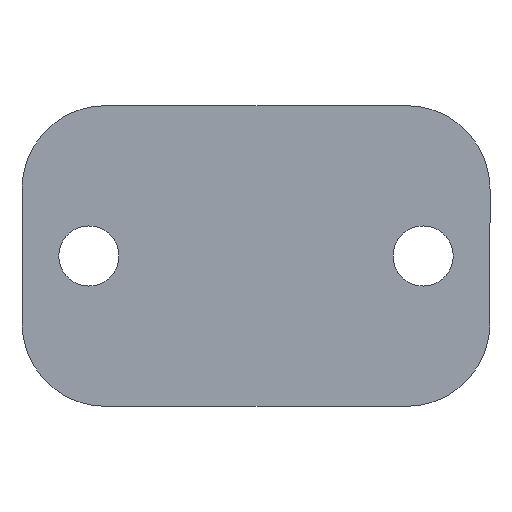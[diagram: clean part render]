
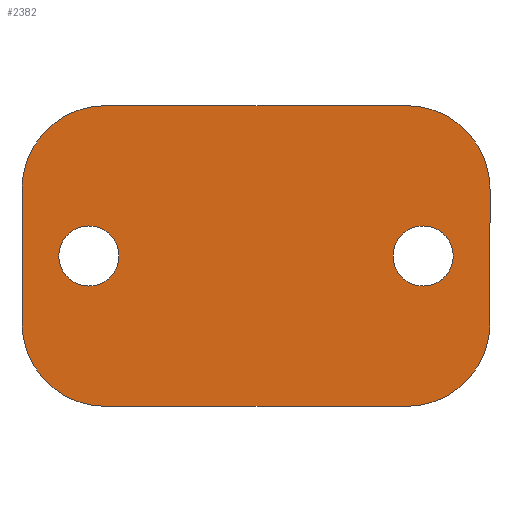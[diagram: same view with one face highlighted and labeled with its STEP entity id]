
A CAD part, front view. The second image highlights one B-rep face of the part: STEP entity #2382.
In plain terms, the highlighted planar face has unit normal (0, -1, 0).
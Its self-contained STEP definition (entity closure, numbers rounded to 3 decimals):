
#79 = EDGE_CURVE ( 'NONE', #2158, #2057, #217, .T. ) ;
#132 = ORIENTED_EDGE ( 'NONE', *, *, #2177, .F. ) ;
#133 = CARTESIAN_POINT ( 'NONE',  ( -50., -20., 0. ) ) ;
#184 = CARTESIAN_POINT ( 'NONE',  ( -45., -20., 45. ) ) ;
#217 = CIRCLE ( 'NONE', #4477, 25. ) ;
#305 = CARTESIAN_POINT ( 'NONE',  ( -50., -20., 0. ) ) ;
#306 = DIRECTION ( 'NONE',  ( 1., 0., 0. ) ) ;
#322 = CARTESIAN_POINT ( 'NONE',  ( -70., -20., -20. ) ) ;
#443 = AXIS2_PLACEMENT_3D ( 'NONE', #2219, #3896, #4406 ) ;
#625 = CIRCLE ( 'NONE', #1609, 9. ) ;
#627 = VERTEX_POINT ( 'NONE', #5263 ) ;
#829 = EDGE_CURVE ( 'NONE', #1466, #4735, #3169, .T. ) ;
#922 = DIRECTION ( 'NONE',  ( 0., -1., 0. ) ) ;
#935 = LINE ( 'NONE', #2540, #5401 ) ;
#977 = DIRECTION ( 'NONE',  ( 1., 0., 0. ) ) ;
#1055 = CARTESIAN_POINT ( 'NONE',  ( 45., -20., -20. ) ) ;
#1062 = CARTESIAN_POINT ( 'NONE',  ( 0., -20., 0. ) ) ;
#1073 = EDGE_LOOP ( 'NONE', ( #132, #2402 ) ) ;
#1126 = ORIENTED_EDGE ( 'NONE', *, *, #3129, .T. ) ;
#1150 = VECTOR ( 'NONE', #4311, 1000. ) ;
#1174 = CARTESIAN_POINT ( 'NONE',  ( 59., -20., 0. ) ) ;
#1180 = DIRECTION ( 'NONE',  ( 0., -1., 0. ) ) ;
#1215 = EDGE_LOOP ( 'NONE', ( #1778, #2195 ) ) ;
#1223 = CARTESIAN_POINT ( 'NONE',  ( -59., -20., 0. ) ) ;
#1236 = AXIS2_PLACEMENT_3D ( 'NONE', #5487, #1180, #4638 ) ;
#1241 = VERTEX_POINT ( 'NONE', #4344 ) ;
#1334 = CIRCLE ( 'NONE', #4233, 25. ) ;
#1359 = ORIENTED_EDGE ( 'NONE', *, *, #79, .T. ) ;
#1363 = DIRECTION ( 'NONE',  ( 1., 0., 0. ) ) ;
#1413 = EDGE_CURVE ( 'NONE', #5533, #627, #4041, .T. ) ;
#1466 = VERTEX_POINT ( 'NONE', #1562 ) ;
#1497 = EDGE_CURVE ( 'NONE', #2390, #4256, #4768, .T. ) ;
#1562 = CARTESIAN_POINT ( 'NONE',  ( 70., -20., -20. ) ) ;
#1602 = AXIS2_PLACEMENT_3D ( 'NONE', #133, #1847, #3587 ) ;
#1609 = AXIS2_PLACEMENT_3D ( 'NONE', #2223, #3957, #306 ) ;
#1778 = ORIENTED_EDGE ( 'NONE', *, *, #5309, .F. ) ;
#1847 = DIRECTION ( 'NONE',  ( 0., -1., 0. ) ) ;
#1849 = VECTOR ( 'NONE', #5345, 1000. ) ;
#1911 = DIRECTION ( 'NONE',  ( 1., 0., 0. ) ) ;
#2057 = VERTEX_POINT ( 'NONE', #2648 ) ;
#2077 = ORIENTED_EDGE ( 'NONE', *, *, #2905, .T. ) ;
#2156 = CIRCLE ( 'NONE', #1602, 9. ) ;
#2158 = VERTEX_POINT ( 'NONE', #184 ) ;
#2177 = EDGE_CURVE ( 'NONE', #627, #5533, #2156, .T. ) ;
#2195 = ORIENTED_EDGE ( 'NONE', *, *, #1497, .F. ) ;
#2219 = CARTESIAN_POINT ( 'NONE',  ( 45., -20., 20. ) ) ;
#2223 = CARTESIAN_POINT ( 'NONE',  ( 50., -20., 0. ) ) ;
#2311 = FACE_BOUND ( 'NONE', #1073, .T. ) ;
#2382 = ADVANCED_FACE ( 'NONE', ( #2311, #3197, #4926 ), #2819, .T. ) ;
#2390 = VERTEX_POINT ( 'NONE', #4524 ) ;
#2399 = ORIENTED_EDGE ( 'NONE', *, *, #3992, .T. ) ;
#2402 = ORIENTED_EDGE ( 'NONE', *, *, #1413, .F. ) ;
#2540 = CARTESIAN_POINT ( 'NONE',  ( -70., -20., 20. ) ) ;
#2581 = CARTESIAN_POINT ( 'NONE',  ( 70., -20., 20. ) ) ;
#2614 = AXIS2_PLACEMENT_3D ( 'NONE', #1055, #4143, #4599 ) ;
#2628 = CARTESIAN_POINT ( 'NONE',  ( -45., -20., 20. ) ) ;
#2648 = CARTESIAN_POINT ( 'NONE',  ( -70., -20., 20. ) ) ;
#2819 = PLANE ( 'NONE',  #5509 ) ;
#2850 = DIRECTION ( 'NONE',  ( 0., -1., 0. ) ) ;
#2852 = AXIS2_PLACEMENT_3D ( 'NONE', #305, #2850, #5088 ) ;
#2905 = EDGE_CURVE ( 'NONE', #2911, #2158, #3488, .T. ) ;
#2911 = VERTEX_POINT ( 'NONE', #4342 ) ;
#3129 = EDGE_CURVE ( 'NONE', #2057, #4731, #935, .T. ) ;
#3169 = LINE ( 'NONE', #3623, #1849 ) ;
#3197 = FACE_BOUND ( 'NONE', #1215, .T. ) ;
#3327 = VECTOR ( 'NONE', #1363, 1000. ) ;
#3488 = LINE ( 'NONE', #3518, #1150 ) ;
#3516 = CIRCLE ( 'NONE', #2614, 25. ) ;
#3518 = CARTESIAN_POINT ( 'NONE',  ( -45., -20., 45. ) ) ;
#3587 = DIRECTION ( 'NONE',  ( 1., 0., 0. ) ) ;
#3623 = CARTESIAN_POINT ( 'NONE',  ( 70., -20., 20. ) ) ;
#3734 = EDGE_CURVE ( 'NONE', #5040, #1241, #3943, .T. ) ;
#3896 = DIRECTION ( 'NONE',  ( 0., -1., 0. ) ) ;
#3902 = DIRECTION ( 'NONE',  ( 0., -1., 0. ) ) ;
#3943 = LINE ( 'NONE', #5250, #3327 ) ;
#3953 = ORIENTED_EDGE ( 'NONE', *, *, #3734, .T. ) ;
#3957 = DIRECTION ( 'NONE',  ( 0., -1., 0. ) ) ;
#3992 = EDGE_CURVE ( 'NONE', #4735, #2911, #4142, .T. ) ;
#4027 = EDGE_CURVE ( 'NONE', #4731, #5040, #1334, .T. ) ;
#4041 = CIRCLE ( 'NONE', #2852, 9. ) ;
#4142 = CIRCLE ( 'NONE', #443, 25. ) ;
#4143 = DIRECTION ( 'NONE',  ( 0., -1., 0. ) ) ;
#4157 = DIRECTION ( 'NONE',  ( 0., -1., 0. ) ) ;
#4229 = ORIENTED_EDGE ( 'NONE', *, *, #4027, .T. ) ;
#4233 = AXIS2_PLACEMENT_3D ( 'NONE', #4806, #922, #977 ) ;
#4256 = VERTEX_POINT ( 'NONE', #1174 ) ;
#4297 = DIRECTION ( 'NONE',  ( 1., 0., 0. ) ) ;
#4311 = DIRECTION ( 'NONE',  ( -1., 0., 0. ) ) ;
#4342 = CARTESIAN_POINT ( 'NONE',  ( 45., -20., 45. ) ) ;
#4344 = CARTESIAN_POINT ( 'NONE',  ( 45., -20., -45. ) ) ;
#4406 = DIRECTION ( 'NONE',  ( 1., 0., 0. ) ) ;
#4477 = AXIS2_PLACEMENT_3D ( 'NONE', #2628, #3902, #4297 ) ;
#4524 = CARTESIAN_POINT ( 'NONE',  ( 41., -20., 0. ) ) ;
#4599 = DIRECTION ( 'NONE',  ( 1., 0., 0. ) ) ;
#4619 = EDGE_CURVE ( 'NONE', #1241, #1466, #3516, .T. ) ;
#4638 = DIRECTION ( 'NONE',  ( 1., 0., 0. ) ) ;
#4648 = EDGE_LOOP ( 'NONE', ( #4229, #3953, #5005, #5035, #2399, #2077, #1359, #1126 ) ) ;
#4731 = VERTEX_POINT ( 'NONE', #322 ) ;
#4735 = VERTEX_POINT ( 'NONE', #2581 ) ;
#4768 = CIRCLE ( 'NONE', #1236, 9. ) ;
#4806 = CARTESIAN_POINT ( 'NONE',  ( -45., -20., -20. ) ) ;
#4850 = CARTESIAN_POINT ( 'NONE',  ( -45., -20., -45. ) ) ;
#4926 = FACE_OUTER_BOUND ( 'NONE', #4648, .T. ) ;
#5005 = ORIENTED_EDGE ( 'NONE', *, *, #4619, .T. ) ;
#5035 = ORIENTED_EDGE ( 'NONE', *, *, #829, .T. ) ;
#5040 = VERTEX_POINT ( 'NONE', #4850 ) ;
#5088 = DIRECTION ( 'NONE',  ( 1., 0., 0. ) ) ;
#5150 = DIRECTION ( 'NONE',  ( 0., 0., -1. ) ) ;
#5250 = CARTESIAN_POINT ( 'NONE',  ( -45., -20., -45. ) ) ;
#5263 = CARTESIAN_POINT ( 'NONE',  ( -41., -20., 0. ) ) ;
#5309 = EDGE_CURVE ( 'NONE', #4256, #2390, #625, .T. ) ;
#5345 = DIRECTION ( 'NONE',  ( 0., 0., 1. ) ) ;
#5401 = VECTOR ( 'NONE', #5150, 1000. ) ;
#5487 = CARTESIAN_POINT ( 'NONE',  ( 50., -20., 0. ) ) ;
#5509 = AXIS2_PLACEMENT_3D ( 'NONE', #1062, #4157, #1911 ) ;
#5533 = VERTEX_POINT ( 'NONE', #1223 ) ;
